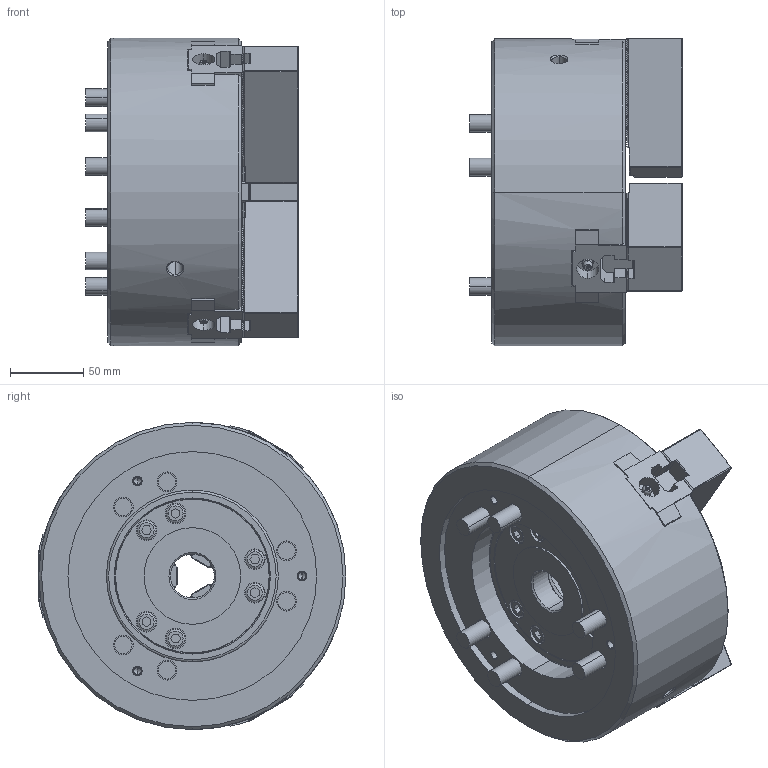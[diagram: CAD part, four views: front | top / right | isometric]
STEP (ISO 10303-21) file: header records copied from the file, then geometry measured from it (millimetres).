
FILE_DESCRIPTION (( 'STEP AP214' ), '1' );
FILE_NAME ('B-208_61P214654-6_UC.STEP', '2020-10-12T02:50:20', ( '' ), ( '' ), 'SwSTEP 2.0', 'SolidWorks 2017', '' );
FILE_SCHEMA (( 'AUTOMOTIVE_DESIGN' ));
Length unit declared in the file: millimetre
Products named in the file (5): B-208_61P214654-6_UC; B-208_BASE^B-208 クミタテ; Bアナツキ M12×30; 61P304291-3_ソフトジョー; 61P417260-1_俿僫僢僩
Assembly tree (13 placements, depth 2):
  B-208_61P214654-6_UC
    61P417260-1_俿僫僢僩  x3
    61P304291-3_ソフトジョー  x3
    Bアナツキ M12×30  x6
    B-208_BASE^B-208 クミタテ
Bounding box: 145 x 210.45 x 210 mm (x, y, z)
Volume: 3016764.5 mm3; surface area: 346183.9 mm2
Topology: 13 solids, 13 shells, 3403 faces, 9517 edges, 6253 vertices
Faces by surface type: plane 2549, cylinder 520, cone 152, bspline 144, torus 26, sphere 12
Entity records: 85861 total; most frequent: CARTESIAN_POINT 22450, ORIENTED_EDGE 14200, DIRECTION 11610, EDGE_CURVE 7100, LINE 5474, VECTOR 5474, VERTEX_POINT 4674, AXIS2_PLACEMENT_3D 3068
